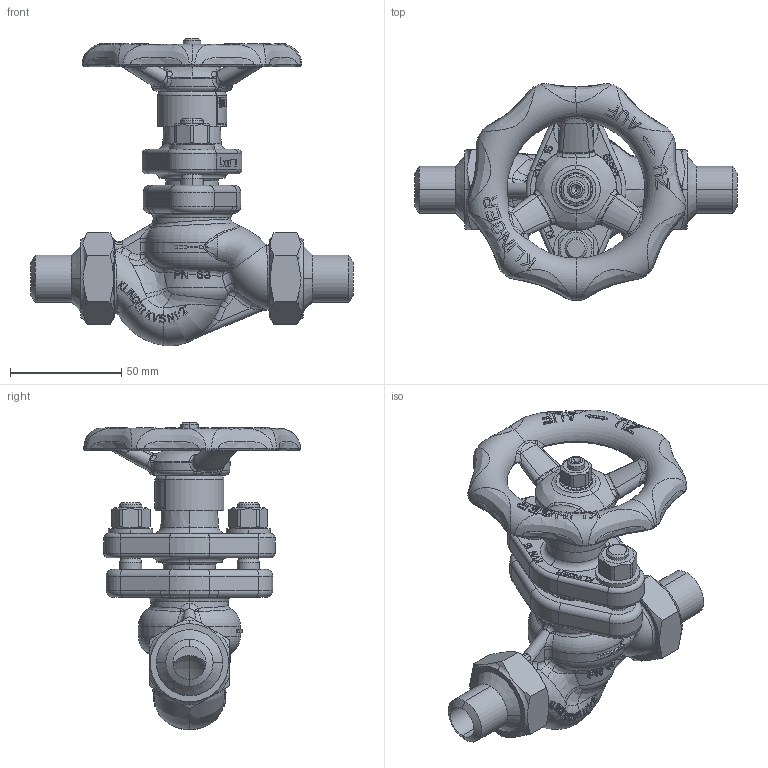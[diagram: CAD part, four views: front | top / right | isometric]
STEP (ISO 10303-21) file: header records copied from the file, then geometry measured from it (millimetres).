
FILE_DESCRIPTION((''),'2;1');
FILE_NAME('KVSN-015S-----P063PGG_SW0001','2015-07-09T',('jeitlers'),('RAND'),'PRO/ENGINEER BY PARAMETRIC TECHNOLOGY CORPORATION, 2013410','PRO/ENGINEER BY PARAMETRIC TECHNOLOGY CORPORATION, 2013410','');
FILE_SCHEMA(('CONFIG_CONTROL_DESIGN'));
Length unit declared in the file: millimetre
Products named in the file (1): KVSN-015S-----P063PGG_SW0001
Bounding box: 145 x 97.69 x 138.51 mm (x, y, z)
Volume: 215672.7 mm3; surface area: 81108.6 mm2
Topology: 1 solids, 3 shells, 2606 faces, 7028 edges, 4506 vertices
Faces by surface type: plane 1636, bspline 462, cylinder 249, torus 125, cone 108, extrusion 22, sphere 4
Entity records: 143106 total; most frequent: CARTESIAN_POINT 83990, ORIENTED_EDGE 14048, DIRECTION 9596, EDGE_CURVE 7024, VERTEX_POINT 4506, VECTOR 3222, LINE 3200, AXIS2_PLACEMENT_3D 3187
